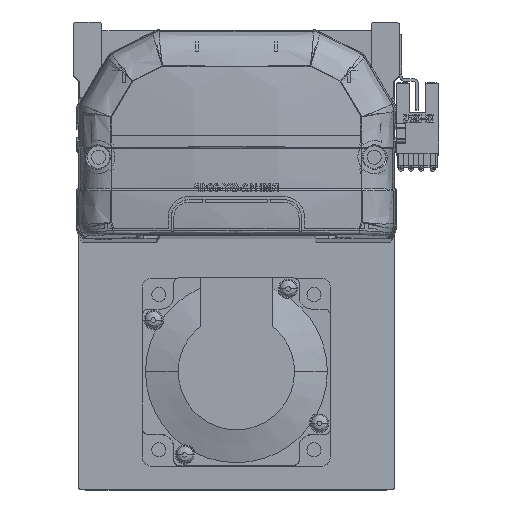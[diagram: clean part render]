
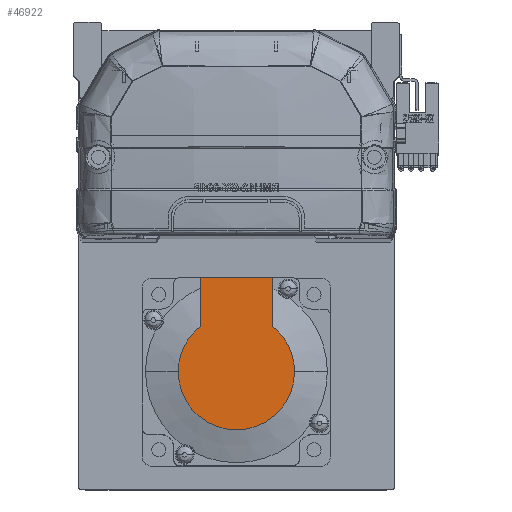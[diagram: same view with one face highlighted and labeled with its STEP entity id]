
A CAD part, top view. The second image highlights one B-rep face of the part: STEP entity #46922.
In plain terms, the highlighted planar face has unit normal (0, 0, 1) as drawn and (-1, 0, 0) by its records, which use the part's own axes.
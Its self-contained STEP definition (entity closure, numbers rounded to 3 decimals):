
#339 = VECTOR ( 'NONE', #52411, 1000. ) ;
#4609 = AXIS2_PLACEMENT_3D ( 'NONE', #47069, #15390, #23856 ) ;
#4986 = DIRECTION ( 'NONE',  ( -1., 0., 0. ) ) ;
#5030 = ORIENTED_EDGE ( 'NONE', *, *, #44613, .T. ) ;
#5257 = DIRECTION ( 'NONE',  ( -1., 0., 0. ) ) ;
#5852 = CARTESIAN_POINT ( 'NONE',  ( -79., 0., 0. ) ) ;
#6347 = ORIENTED_EDGE ( 'NONE', *, *, #47913, .F. ) ;
#6590 = EDGE_LOOP ( 'NONE', ( #28519, #53581, #5030, #34311, #8655, #6347 ) ) ;
#6621 = AXIS2_PLACEMENT_3D ( 'NONE', #20960, #44424, #21543 ) ;
#8067 = CARTESIAN_POINT ( 'NONE',  ( -79., 14.579, -11.45 ) ) ;
#8655 = ORIENTED_EDGE ( 'NONE', *, *, #23808, .F. ) ;
#10254 = EDGE_CURVE ( 'NONE', #38148, #21123, #19835, .T. ) ;
#11662 = CIRCLE ( 'NONE', #4609, 18.538 ) ;
#12688 = AXIS2_PLACEMENT_3D ( 'NONE', #27305, #4986, #37099 ) ;
#14136 = CARTESIAN_POINT ( 'NONE',  ( -79., 14.579, 11.45 ) ) ;
#15329 = AXIS2_PLACEMENT_3D ( 'NONE', #5852, #5257, #28934 ) ;
#15390 = DIRECTION ( 'NONE',  ( -1., 0., 0. ) ) ;
#16090 = CARTESIAN_POINT ( 'NONE',  ( -79., 30., 27. ) ) ;
#16733 = PLANE ( 'NONE',  #6621 ) ;
#16770 = VECTOR ( 'NONE', #16896, 1000. ) ;
#16888 = LINE ( 'NONE', #16090, #339 ) ;
#16896 = DIRECTION ( 'NONE',  ( 0., -1., 0. ) ) ;
#17879 = DIRECTION ( 'NONE',  ( 0., -1., 0. ) ) ;
#19835 = CIRCLE ( 'NONE', #15329, 18.538 ) ;
#20960 = CARTESIAN_POINT ( 'NONE',  ( -79., -9.269, 0. ) ) ;
#21123 = VERTEX_POINT ( 'NONE', #14136 ) ;
#21543 = DIRECTION ( 'NONE',  ( 0., 0., 1. ) ) ;
#22969 = VERTEX_POINT ( 'NONE', #8067 ) ;
#23808 = EDGE_CURVE ( 'NONE', #52230, #21123, #45662, .T. ) ;
#23856 = DIRECTION ( 'NONE',  ( 0., 0., -1. ) ) ;
#25040 = CIRCLE ( 'NONE', #12688, 18.538 ) ;
#27305 = CARTESIAN_POINT ( 'NONE',  ( -79., 0., 0. ) ) ;
#28519 = ORIENTED_EDGE ( 'NONE', *, *, #32028, .T. ) ;
#28934 = DIRECTION ( 'NONE',  ( 0., 0., -1. ) ) ;
#30429 = CARTESIAN_POINT ( 'NONE',  ( -79., 30., 11.45 ) ) ;
#30585 = VECTOR ( 'NONE', #17879, 1000. ) ;
#31642 = VERTEX_POINT ( 'NONE', #47944 ) ;
#31801 = CARTESIAN_POINT ( 'NONE',  ( -79., 0., -18.538 ) ) ;
#32028 = EDGE_CURVE ( 'NONE', #31642, #22969, #44059, .T. ) ;
#34311 = ORIENTED_EDGE ( 'NONE', *, *, #10254, .T. ) ;
#35264 = EDGE_CURVE ( 'NONE', #22969, #35478, #11662, .T. ) ;
#35478 = VERTEX_POINT ( 'NONE', #31801 ) ;
#37082 = FACE_OUTER_BOUND ( 'NONE', #6590, .T. ) ;
#37099 = DIRECTION ( 'NONE',  ( 0., 0., -1. ) ) ;
#38148 = VERTEX_POINT ( 'NONE', #54868 ) ;
#44059 = LINE ( 'NONE', #53818, #16770 ) ;
#44424 = DIRECTION ( 'NONE',  ( -1., 0., 0. ) ) ;
#44613 = EDGE_CURVE ( 'NONE', #35478, #38148, #25040, .T. ) ;
#45662 = LINE ( 'NONE', #49947, #30585 ) ;
#46922 = ADVANCED_FACE ( 'NONE', ( #37082 ), #16733, .T. ) ;
#47069 = CARTESIAN_POINT ( 'NONE',  ( -79., 0., 0. ) ) ;
#47913 = EDGE_CURVE ( 'NONE', #31642, #52230, #16888, .T. ) ;
#47944 = CARTESIAN_POINT ( 'NONE',  ( -79., 30., -11.45 ) ) ;
#49947 = CARTESIAN_POINT ( 'NONE',  ( -79., 0., 11.45 ) ) ;
#52230 = VERTEX_POINT ( 'NONE', #30429 ) ;
#52411 = DIRECTION ( 'NONE',  ( 0., 0., 1. ) ) ;
#53581 = ORIENTED_EDGE ( 'NONE', *, *, #35264, .T. ) ;
#53818 = CARTESIAN_POINT ( 'NONE',  ( -79., -9.269, -11.45 ) ) ;
#54868 = CARTESIAN_POINT ( 'NONE',  ( -79., 0., 18.538 ) ) ;
